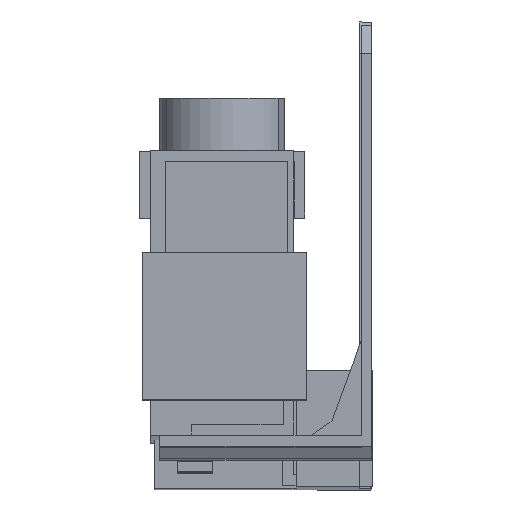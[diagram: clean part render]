
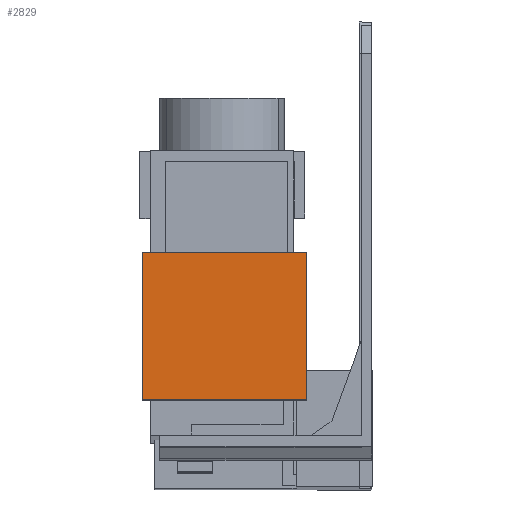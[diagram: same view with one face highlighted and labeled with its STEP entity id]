
A CAD part, front view. The second image highlights one B-rep face of the part: STEP entity #2829.
In plain terms, the highlighted planar face has unit normal (0, -1, 0.003).
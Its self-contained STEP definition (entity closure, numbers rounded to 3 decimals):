
#169 = CARTESIAN_POINT ( 'NONE',  ( -9.3, -31.509, -40.315 ) ) ;
#183 = CARTESIAN_POINT ( 'NONE',  ( -32.7, -31.509, -40.315 ) ) ;
#185 = CARTESIAN_POINT ( 'NONE',  ( -9.3, -31.452, -19.316 ) ) ;
#254 = CARTESIAN_POINT ( 'NONE',  ( -32.7, -31.452, -19.316 ) ) ;
#330 = VERTEX_POINT ( 'NONE', #254 ) ;
#332 = VERTEX_POINT ( 'NONE', #185 ) ;
#333 = VERTEX_POINT ( 'NONE', #183 ) ;
#334 = VERTEX_POINT ( 'NONE', #169 ) ;
#1126 = EDGE_CURVE ( 'NONE', #334, #332, #4217, .T. ) ;
#1295 = EDGE_CURVE ( 'NONE', #333, #330, #5571, .T. ) ;
#1517 = EDGE_CURVE ( 'NONE', #332, #330, #5770, .T. ) ;
#1578 = AXIS2_PLACEMENT_3D ( 'NONE', #8554, #8567, #8569 ) ;
#2249 = EDGE_LOOP ( 'NONE', ( #8353, #8351, #8349, #8347 ) ) ;
#2551 = EDGE_CURVE ( 'NONE', #334, #333, #6364, .T. ) ;
#2829 = ADVANCED_FACE ( 'NONE', ( #8048 ), #8548, .T. ) ;
#4216 = VECTOR ( 'NONE', #4799, 1000. ) ;
#4217 = LINE ( 'NONE', #4798, #4216 ) ;
#4798 = CARTESIAN_POINT ( 'NONE',  ( -9.3, -31.509, -40.315 ) ) ;
#4799 = DIRECTION ( 'NONE',  ( 0., 0.003, 1. ) ) ;
#4986 = CARTESIAN_POINT ( 'NONE',  ( -32.7, -31.509, -40.315 ) ) ;
#4987 = DIRECTION ( 'NONE',  ( 0., 0.003, 1. ) ) ;
#5239 = CARTESIAN_POINT ( 'NONE',  ( -9.3, -31.452, -19.316 ) ) ;
#5240 = DIRECTION ( 'NONE',  ( -1., 0., 0. ) ) ;
#5571 = LINE ( 'NONE', #4986, #5572 ) ;
#5572 = VECTOR ( 'NONE', #4987, 1000. ) ;
#5770 = LINE ( 'NONE', #5239, #5771 ) ;
#5771 = VECTOR ( 'NONE', #5240, 1000. ) ;
#6364 = LINE ( 'NONE', #7173, #6365 ) ;
#6365 = VECTOR ( 'NONE', #7174, 1000. ) ;
#7173 = CARTESIAN_POINT ( 'NONE',  ( -9.3, -31.509, -40.315 ) ) ;
#7174 = DIRECTION ( 'NONE',  ( -1., 0., 0. ) ) ;
#8048 = FACE_OUTER_BOUND ( 'NONE', #2249, .T. ) ;
#8347 = ORIENTED_EDGE ( 'NONE', *, *, #1126, .T. ) ;
#8349 = ORIENTED_EDGE ( 'NONE', *, *, #2551, .F. ) ;
#8351 = ORIENTED_EDGE ( 'NONE', *, *, #1295, .F. ) ;
#8353 = ORIENTED_EDGE ( 'NONE', *, *, #1517, .T. ) ;
#8548 = PLANE ( 'NONE',  #1578 ) ;
#8554 = CARTESIAN_POINT ( 'NONE',  ( -9.3, -31.509, -40.315 ) ) ;
#8567 = DIRECTION ( 'NONE',  ( 0., -1., 0.003 ) ) ;
#8569 = DIRECTION ( 'NONE',  ( 1., 0., 0. ) ) ;
